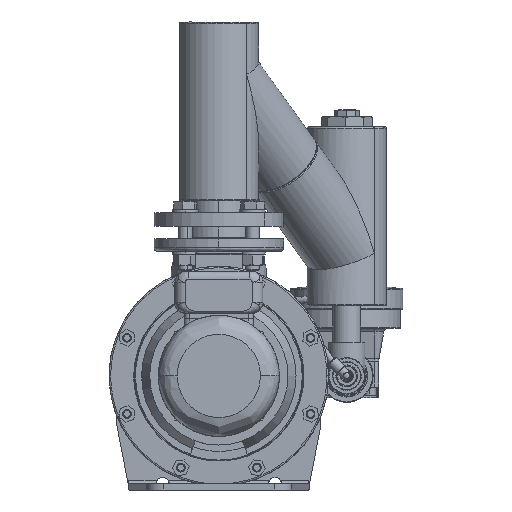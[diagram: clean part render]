
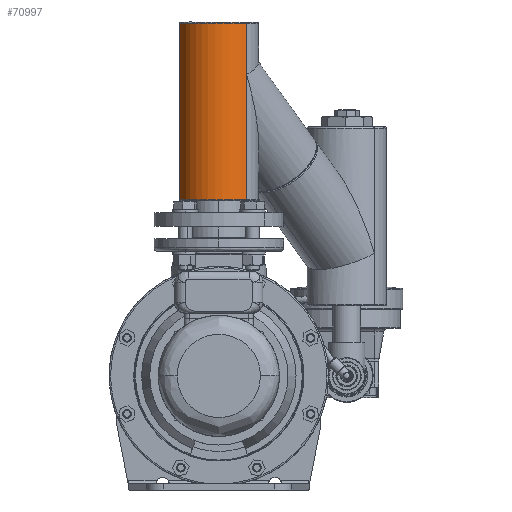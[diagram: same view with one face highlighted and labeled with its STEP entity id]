
A CAD part, front view. The second image highlights one B-rep face of the part: STEP entity #70997.
In plain terms, the highlighted cylindrical face has radius 46 mm (diameter 92 mm), a partial arc.
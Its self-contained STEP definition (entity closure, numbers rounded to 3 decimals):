
#27600 = LINE ( 'NONE', #27643, #27634 ) ;
#27617 = CARTESIAN_POINT ( 'NONE',  ( -122.403, -283.859, 373.475 ) ) ;
#27625 = DIRECTION ( 'NONE',  ( 0., 0., 1. ) ) ;
#27626 = VECTOR ( 'NONE', #27625, 1000. ) ;
#27627 = CARTESIAN_POINT ( 'NONE',  ( -186.554, -217.914, 330.975 ) ) ;
#27629 = LINE ( 'NONE', #27627, #27626 ) ;
#27634 = VECTOR ( 'NONE', #27642, 1000. ) ;
#27642 = DIRECTION ( 'NONE',  ( 0., 0., 1. ) ) ;
#27643 = CARTESIAN_POINT ( 'NONE',  ( -122.403, -283.859, 330.975 ) ) ;
#27683 = DIRECTION ( 'NONE',  ( 0., 0., 1. ) ) ;
#27685 = VECTOR ( 'NONE', #27683, 1000. ) ;
#27686 = CARTESIAN_POINT ( 'NONE',  ( -186.554, -217.914, 330.975 ) ) ;
#27687 = LINE ( 'NONE', #27686, #27685 ) ;
#27727 = CARTESIAN_POINT ( 'NONE',  ( -186.554, -217.914, 373.475 ) ) ;
#27882 = DIRECTION ( 'NONE',  ( 0., 0., 1. ) ) ;
#27883 = VECTOR ( 'NONE', #27882, 1000. ) ;
#27884 = CARTESIAN_POINT ( 'NONE',  ( -122.403, -283.859, 330.975 ) ) ;
#27885 = LINE ( 'NONE', #27884, #27883 ) ;
#29583 = AXIS2_PLACEMENT_3D ( 'NONE', #29639, #29630, #29629 ) ;
#29629 = DIRECTION ( 'NONE',  ( 0.697, -0.717, 0. ) ) ;
#29630 = DIRECTION ( 'NONE',  ( 0., 0., 1. ) ) ;
#29634 = CYLINDRICAL_SURFACE ( 'NONE', #29583, 46. ) ;
#29638 = FACE_OUTER_BOUND ( 'NONE', #70930, .T. ) ;
#29639 = CARTESIAN_POINT ( 'NONE',  ( -154.478, -250.887, 330.975 ) ) ;
#45458 = CARTESIAN_POINT ( 'NONE',  ( -186.554, -217.914, 433.2 ) ) ;
#45462 = CARTESIAN_POINT ( 'NONE',  ( -122.403, -283.859, 433.2 ) ) ;
#45887 = CARTESIAN_POINT ( 'NONE',  ( -122.403, -283.859, 228.75 ) ) ;
#45921 = CIRCLE ( 'NONE', #46012, 46. ) ;
#45965 = AXIS2_PLACEMENT_3D ( 'NONE', #46043, #46020, #46019 ) ;
#45982 = CIRCLE ( 'NONE', #45965, 46. ) ;
#45986 = DIRECTION ( 'NONE',  ( 0.697, -0.717, 0. ) ) ;
#45987 = DIRECTION ( 'NONE',  ( 0., 0., 1. ) ) ;
#45988 = CARTESIAN_POINT ( 'NONE',  ( -154.478, -250.887, 228.75 ) ) ;
#45994 = CARTESIAN_POINT ( 'NONE',  ( -186.554, -217.914, 228.75 ) ) ;
#46012 = AXIS2_PLACEMENT_3D ( 'NONE', #45988, #45987, #45986 ) ;
#46019 = DIRECTION ( 'NONE',  ( 0.697, -0.717, 0. ) ) ;
#46020 = DIRECTION ( 'NONE',  ( 0., 0., -1. ) ) ;
#46043 = CARTESIAN_POINT ( 'NONE',  ( -154.478, -250.887, 433.2 ) ) ;
#55774 = VERTEX_POINT ( 'NONE', #45462 ) ;
#55777 = VERTEX_POINT ( 'NONE', #45458 ) ;
#55879 = VERTEX_POINT ( 'NONE', #45887 ) ;
#55892 = EDGE_CURVE ( 'NONE', #55894, #55879, #45921, .T. ) ;
#55894 = VERTEX_POINT ( 'NONE', #45994 ) ;
#55908 = EDGE_CURVE ( 'NONE', #55774, #55777, #45982, .T. ) ;
#70419 = VERTEX_POINT ( 'NONE', #27617 ) ;
#70441 = EDGE_CURVE ( 'NONE', #55879, #70419, #27600, .T. ) ;
#70448 = EDGE_CURVE ( 'NONE', #70469, #55777, #27629, .T. ) ;
#70462 = EDGE_CURVE ( 'NONE', #55894, #70469, #27687, .T. ) ;
#70469 = VERTEX_POINT ( 'NONE', #27727 ) ;
#70507 = EDGE_CURVE ( 'NONE', #70419, #55774, #27885, .T. ) ;
#70930 = EDGE_LOOP ( 'NONE', ( #70940, #70990, #70998, #71001, #71005, #71057 ) ) ;
#70940 = ORIENTED_EDGE ( 'NONE', *, *, #70462, .F. ) ;
#70990 = ORIENTED_EDGE ( 'NONE', *, *, #55892, .T. ) ;
#70997 = ADVANCED_FACE ( 'NONE', ( #29638 ), #29634, .T. ) ;
#70998 = ORIENTED_EDGE ( 'NONE', *, *, #70441, .T. ) ;
#71001 = ORIENTED_EDGE ( 'NONE', *, *, #70507, .T. ) ;
#71005 = ORIENTED_EDGE ( 'NONE', *, *, #55908, .T. ) ;
#71057 = ORIENTED_EDGE ( 'NONE', *, *, #70448, .F. ) ;
